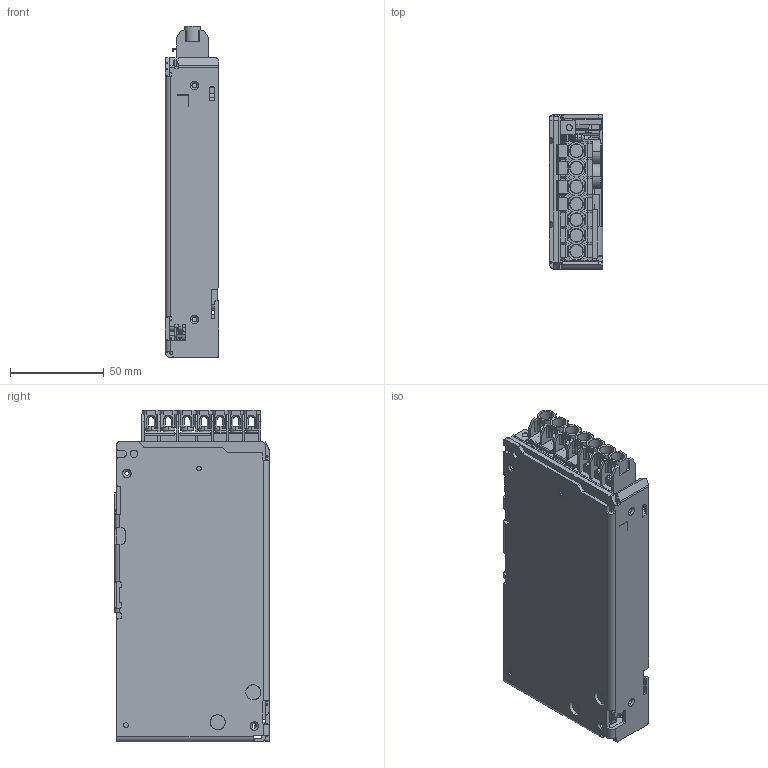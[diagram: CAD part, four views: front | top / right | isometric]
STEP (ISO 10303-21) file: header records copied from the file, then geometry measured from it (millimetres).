
FILE_DESCRIPTION (( 'STEP AP214' ), '1' );
FILE_NAME ('hws100a_outline.STEP', '2023-05-10T00:06:29', ( '' ), ( '' ), 'SwSTEP 2.0', 'SolidWorks 2020', '' );
FILE_SCHEMA (( 'AUTOMOTIVE_DESIGN' ));
Length unit declared in the file: millimetre
Products named in the file (1): hws100a_outline
Bounding box: 28.5 x 82.5 x 177.3 mm (x, y, z)
Volume: 185785.1 mm3; surface area: 104400.2 mm2
Topology: 3 solids, 47 shells, 3507 faces, 10175 edges, 6769 vertices
Faces by surface type: plane 2410, cylinder 886, cone 129, bspline 75, sphere 7
Entity records: 159427 total; most frequent: CARTESIAN_POINT 48367, ORIENTED_EDGE 20262, DIRECTION 15247, EDGE_CURVE 10131, VERTEX_POINT 6755, LINE 6613, VECTOR 6613, AXIS2_PLACEMENT_3D 4317
